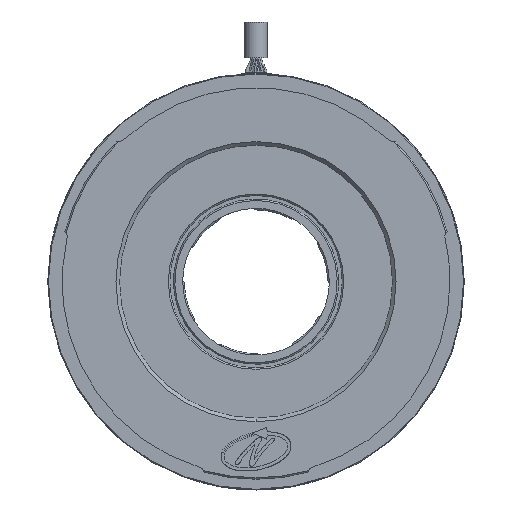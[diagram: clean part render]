
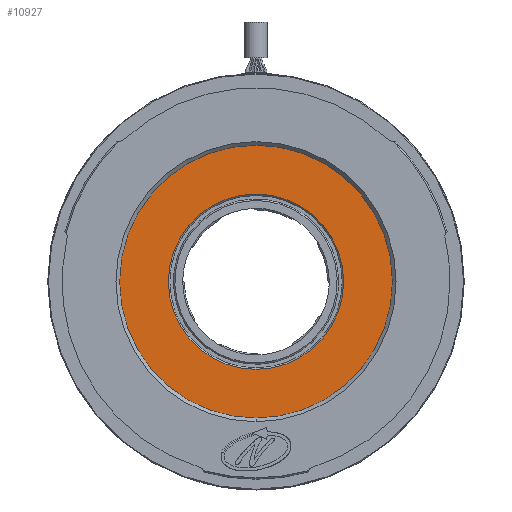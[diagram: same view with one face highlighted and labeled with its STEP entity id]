
A CAD part, front view. The second image highlights one B-rep face of the part: STEP entity #10927.
In plain terms, the highlighted planar face has unit normal (0, -1, 0).
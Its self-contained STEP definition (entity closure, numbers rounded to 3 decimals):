
#602 = PLANE ( 'NONE',  #122560 ) ;
#1391 = ORIENTED_EDGE ( 'NONE', *, *, #131556, .T. ) ;
#10253 = DIRECTION ( 'NONE',  ( 0., 0., -1. ) ) ;
#10927 = ADVANCED_FACE ( 'NONE', ( #78308, #33057 ), #602, .T. ) ;
#19852 = DIRECTION ( 'NONE',  ( 0., 1., 0. ) ) ;
#20556 = VERTEX_POINT ( 'NONE', #50278 ) ;
#20772 = ORIENTED_EDGE ( 'NONE', *, *, #21134, .T. ) ;
#21134 = EDGE_CURVE ( 'NONE', #94110, #20556, #130209, .T. ) ;
#30194 = CARTESIAN_POINT ( 'NONE',  ( 0., 0.5, 12.2 ) ) ;
#30207 = EDGE_CURVE ( 'NONE', #64552, #92687, #48761, .T. ) ;
#31234 = ORIENTED_EDGE ( 'NONE', *, *, #30207, .F. ) ;
#33057 = FACE_OUTER_BOUND ( 'NONE', #38336, .T. ) ;
#35161 = CARTESIAN_POINT ( 'NONE',  ( 12., 0.5, 0. ) ) ;
#36212 = DIRECTION ( 'NONE',  ( 0., 0., 1. ) ) ;
#36896 = CARTESIAN_POINT ( 'NONE',  ( 0., 0.5, 0. ) ) ;
#38336 = EDGE_LOOP ( 'NONE', ( #40183, #31234 ) ) ;
#40183 = ORIENTED_EDGE ( 'NONE', *, *, #51288, .F. ) ;
#43567 = CARTESIAN_POINT ( 'NONE',  ( 0., 0.5, 0. ) ) ;
#44508 = DIRECTION ( 'NONE',  ( 0., -1., 0. ) ) ;
#47891 = CARTESIAN_POINT ( 'NONE',  ( 0., 0.5, -19. ) ) ;
#48761 = CIRCLE ( 'NONE', #136267, 19. ) ;
#50278 = CARTESIAN_POINT ( 'NONE',  ( 0., 0.5, -12.2 ) ) ;
#51288 = EDGE_CURVE ( 'NONE', #92687, #64552, #90422, .T. ) ;
#60382 = DIRECTION ( 'NONE',  ( 0., 0., 1. ) ) ;
#64552 = VERTEX_POINT ( 'NONE', #93610 ) ;
#65272 = EDGE_LOOP ( 'NONE', ( #1391, #20772 ) ) ;
#75754 = CARTESIAN_POINT ( 'NONE',  ( 0., 0.5, 0. ) ) ;
#78308 = FACE_BOUND ( 'NONE', #65272, .T. ) ;
#79013 = DIRECTION ( 'NONE',  ( 0., 0., -1. ) ) ;
#80068 = DIRECTION ( 'NONE',  ( 0., 1., 0. ) ) ;
#81604 = AXIS2_PLACEMENT_3D ( 'NONE', #75754, #119784, #10253 ) ;
#88147 = DIRECTION ( 'NONE',  ( 0., 0., -1. ) ) ;
#90422 = CIRCLE ( 'NONE', #127294, 19. ) ;
#92687 = VERTEX_POINT ( 'NONE', #47891 ) ;
#93610 = CARTESIAN_POINT ( 'NONE',  ( 0., 0.5, 19. ) ) ;
#94110 = VERTEX_POINT ( 'NONE', #30194 ) ;
#104914 = AXIS2_PLACEMENT_3D ( 'NONE', #43567, #19852, #88147 ) ;
#119784 = DIRECTION ( 'NONE',  ( 0., 1., 0. ) ) ;
#122560 = AXIS2_PLACEMENT_3D ( 'NONE', #35161, #44508, #79013 ) ;
#127294 = AXIS2_PLACEMENT_3D ( 'NONE', #127341, #129470, #60382 ) ;
#127341 = CARTESIAN_POINT ( 'NONE',  ( 0., 0.5, 0. ) ) ;
#129470 = DIRECTION ( 'NONE',  ( 0., 1., 0. ) ) ;
#130209 = CIRCLE ( 'NONE', #104914, 12.2 ) ;
#131556 = EDGE_CURVE ( 'NONE', #20556, #94110, #136852, .T. ) ;
#136267 = AXIS2_PLACEMENT_3D ( 'NONE', #36896, #80068, #36212 ) ;
#136852 = CIRCLE ( 'NONE', #81604, 12.2 ) ;
